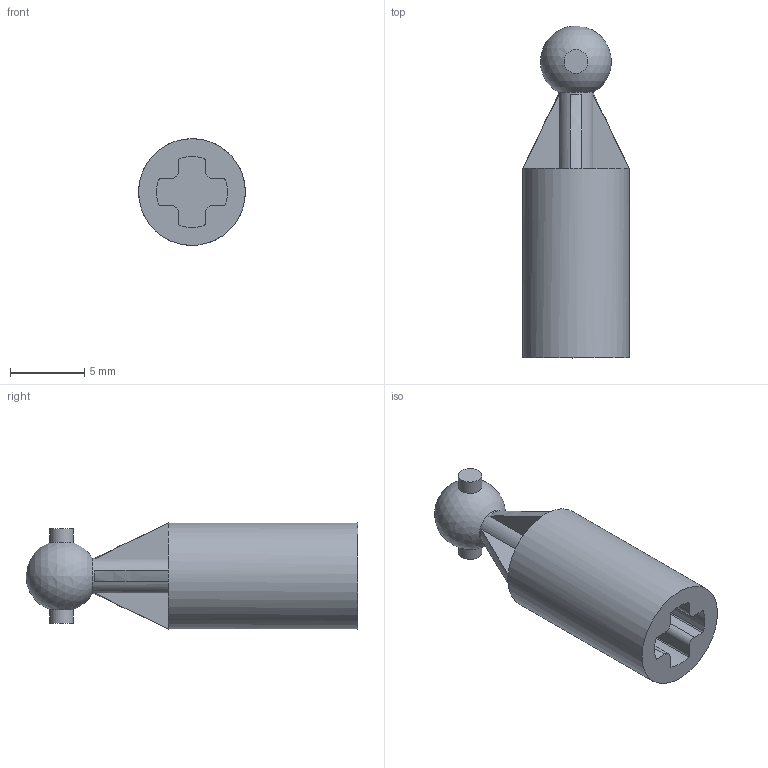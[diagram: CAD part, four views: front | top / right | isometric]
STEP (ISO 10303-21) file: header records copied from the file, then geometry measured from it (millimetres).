
FILE_DESCRIPTION(/* description */ ('Unknown'),/* implementation_level */ '2;1');
FILE_NAME(/* name */ 'ClGray_4268659_MCM',/* time_stamp */ '2025-07-21T23:54:49+02:00',/* author */ ('Unknown'),/* organization */ ('Unknown'),/* preprocessor_version */ 'ST-DEVELOPER v19.4',/* originating_system */ 'Solid Edge',/* authorisation */ 'Unknown');
FILE_SCHEMA (('AUTOMOTIVE_DESIGN {1 0 10303 214 3 1 1}'));
Length unit declared in the file: millimetre
Products named in the file (1): ClGray_4268659_MCM
Bounding box: 7.2 x 22.4 x 7.2 mm (x, y, z)
Volume: 458.3 mm3; surface area: 728.9 mm2
Topology: 1 solids, 1 shells, 49 faces, 128 edges, 83 vertices
Faces by surface type: plane 24, cylinder 20, cone 4, sphere 1
Full cylindrical faces by diameter (mm): 1.6 x2, 2.4 x1, 7.2 x1
Entity records: 1488 total; most frequent: CARTESIAN_POINT 270, DIRECTION 264, ORIENTED_EDGE 236, EDGE_CURVE 118, AXIS2_PLACEMENT_3D 104, VERTEX_POINT 78, LINE 56, VECTOR 56
